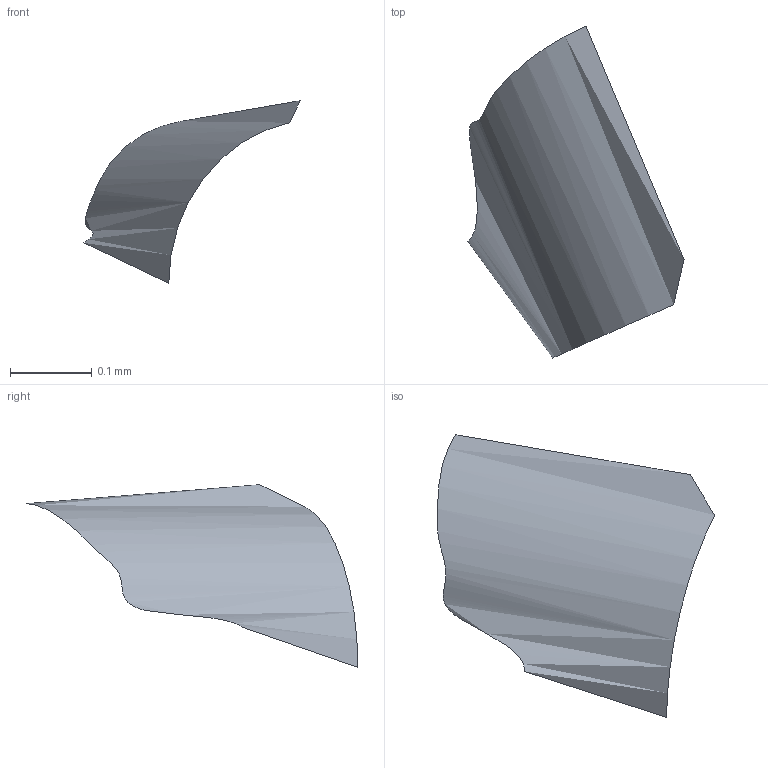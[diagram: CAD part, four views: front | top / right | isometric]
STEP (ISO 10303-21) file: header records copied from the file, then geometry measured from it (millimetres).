
FILE_DESCRIPTION(('BRL-CAD AP214 source-first near-cylinder line fixture'),'2;1');
FILE_NAME('ap214_source_first_near_cylinder_line.stp','2026-08-04T00:00:00',('BRL-CAD'),('BRL-CAD'),'','','');
FILE_SCHEMA(('AUTOMOTIVE_DESIGN { 1 0 10303 214 3 1 1 1 }'));
Length unit declared in the file: inch
Products named in the file (1): source_first_near_cylinder_line
Bounding box: 0.26 x 0.41 x 0.22 mm (x, y, z)
Surface area: 0.1 mm2 (no closed solid volume)
Topology: 0 solids, 1 shells, 1 faces, 4 edges, 4 vertices
Faces by surface type: cylinder 1
Entity records: 69 total; most frequent: CARTESIAN_POINT 19, DIRECTION 8, VERTEX_POINT 4, EDGE_CURVE 4, ORIENTED_EDGE 4, AXIS2_PLACEMENT_3D 3, VECTOR 2, LINE 2
